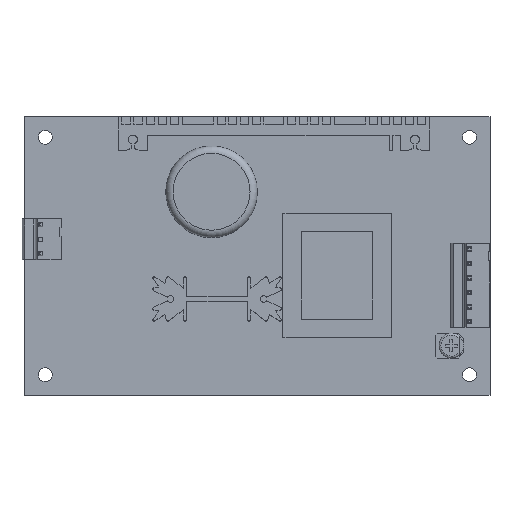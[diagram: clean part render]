
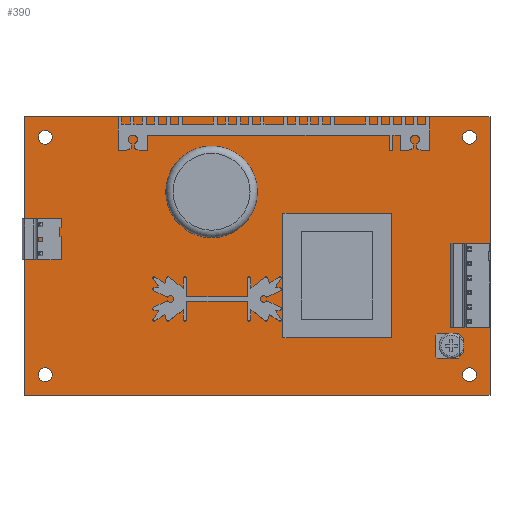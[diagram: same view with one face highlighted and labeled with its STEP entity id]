
A CAD part, top view. The second image highlights one B-rep face of the part: STEP entity #390.
In plain terms, the highlighted planar face has unit normal (0, 0, 1).
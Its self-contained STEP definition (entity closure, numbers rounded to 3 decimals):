
#112=CARTESIAN_POINT('',(97.306,63.288,1.6));
#113=VERTEX_POINT('',#112);
#114=CARTESIAN_POINT('',(95.406,63.288,1.6));
#115=DIRECTION('',(0.0,0.0,-1.0));
#116=DIRECTION('',(-1.0,0.0,0.0));
#117=AXIS2_PLACEMENT_3D('',#114,#115,#116);
#118=CIRCLE('',#117,1.9);
#119=EDGE_CURVE('',#113,#113,#118,.T.);
#140=CARTESIAN_POINT('',(97.306,-1.512,1.6));
#141=VERTEX_POINT('',#140);
#142=CARTESIAN_POINT('',(95.406,-1.512,1.6));
#143=DIRECTION('',(0.0,0.0,-1.0));
#144=DIRECTION('',(-1.0,0.0,0.0));
#145=AXIS2_PLACEMENT_3D('',#142,#143,#144);
#146=CIRCLE('',#145,1.9);
#147=EDGE_CURVE('',#141,#141,#146,.T.);
#168=CARTESIAN_POINT('',(-18.494,-1.512,1.6));
#169=VERTEX_POINT('',#168);
#170=CARTESIAN_POINT('',(-20.394,-1.512,1.6));
#171=DIRECTION('',(0.0,0.0,-1.0));
#172=DIRECTION('',(-1.0,0.0,0.0));
#173=AXIS2_PLACEMENT_3D('',#170,#171,#172);
#174=CIRCLE('',#173,1.9);
#175=EDGE_CURVE('',#169,#169,#174,.T.);
#196=CARTESIAN_POINT('',(-18.494,63.288,1.6));
#197=VERTEX_POINT('',#196);
#198=CARTESIAN_POINT('',(-20.394,63.288,1.6));
#199=DIRECTION('',(0.0,0.0,-1.0));
#200=DIRECTION('',(-1.0,0.0,0.0));
#201=AXIS2_PLACEMENT_3D('',#198,#199,#200);
#202=CIRCLE('',#201,1.9);
#203=EDGE_CURVE('',#197,#197,#202,.T.);
#224=CARTESIAN_POINT('',(-25.994,68.888,1.6));
#225=VERTEX_POINT('',#224);
#226=CARTESIAN_POINT('',(101.006,68.888,1.6));
#227=VERTEX_POINT('',#226);
#228=CARTESIAN_POINT('',(-25.994,68.888,1.6));
#229=DIRECTION('',(1.0,0.0,0.0));
#230=VECTOR('',#229,127.);
#231=LINE('',#228,#230);
#232=EDGE_CURVE('',#225,#227,#231,.T.);
#264=CARTESIAN_POINT('',(101.006,-7.112,1.6));
#265=VERTEX_POINT('',#264);
#266=CARTESIAN_POINT('',(101.006,68.888,1.6));
#267=DIRECTION('',(0.0,-1.0,0.0));
#268=VECTOR('',#267,76.0);
#269=LINE('',#266,#268);
#270=EDGE_CURVE('',#227,#265,#269,.T.);
#295=CARTESIAN_POINT('',(-25.994,-7.112,1.6));
#296=VERTEX_POINT('',#295);
#297=CARTESIAN_POINT('',(101.006,-7.112,1.6));
#298=DIRECTION('',(-1.0,0.0,0.0));
#299=VECTOR('',#298,127.);
#300=LINE('',#297,#299);
#301=EDGE_CURVE('',#265,#296,#300,.T.);
#326=CARTESIAN_POINT('',(-25.994,-7.112,1.6));
#327=DIRECTION('',(0.0,1.0,0.0));
#328=VECTOR('',#327,76.0);
#329=LINE('',#326,#328);
#330=EDGE_CURVE('',#296,#225,#329,.T.);
#367=CARTESIAN_POINT('',(37.506,30.888,1.6));
#368=DIRECTION('',(0.0,0.0,1.0));
#369=DIRECTION('',(1.0,0.0,0.0));
#370=AXIS2_PLACEMENT_3D('',#367,#368,#369);
#371=PLANE('',#370);
#372=ORIENTED_EDGE('',*,*,#232,.F.);
#373=ORIENTED_EDGE('',*,*,#330,.F.);
#374=ORIENTED_EDGE('',*,*,#301,.F.);
#375=ORIENTED_EDGE('',*,*,#270,.F.);
#376=EDGE_LOOP('',(#372,#373,#374,#375));
#377=FACE_OUTER_BOUND('',#376,.T.);
#378=ORIENTED_EDGE('',*,*,#119,.T.);
#379=EDGE_LOOP('',(#378));
#380=FACE_BOUND('',#379,.T.);
#381=ORIENTED_EDGE('',*,*,#147,.T.);
#382=EDGE_LOOP('',(#381));
#383=FACE_BOUND('',#382,.T.);
#384=ORIENTED_EDGE('',*,*,#175,.T.);
#385=EDGE_LOOP('',(#384));
#386=FACE_BOUND('',#385,.T.);
#387=ORIENTED_EDGE('',*,*,#203,.T.);
#388=EDGE_LOOP('',(#387));
#389=FACE_BOUND('',#388,.T.);
#390=ADVANCED_FACE('',(#377,#380,#383,#386,#389),#371,.T.);
